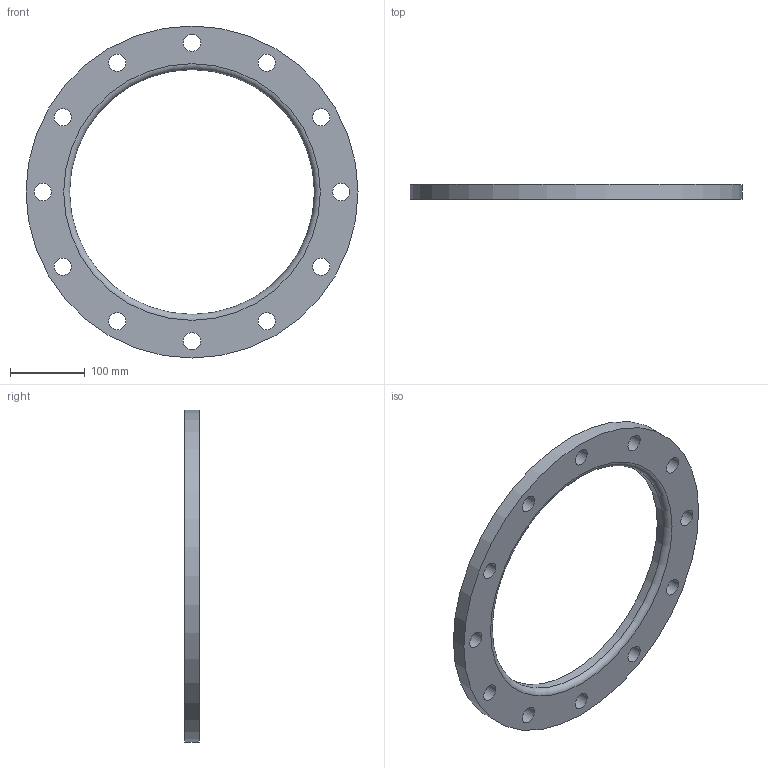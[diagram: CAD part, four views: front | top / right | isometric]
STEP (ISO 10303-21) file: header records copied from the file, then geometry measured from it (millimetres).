
FILE_DESCRIPTION(/* description */ (''),/* implementation_level */ '2;1');
FILE_NAME(/* name */ 'Z:\Geberit\Export\NewStep\372745.stp',/* time_stamp */ '2014-04-02T08:07:13+02:00',/* author */ ('nelson'),/* organization */ (''),/* preprocessor_version */ 'ST-DEVELOPER v15.2',/* originating_system */ 'Autodesk Inventor 2014',/* authorisation */ '');
FILE_SCHEMA (('AUTOMOTIVE_DESIGN { 1 0 10303 214 3 1 1 }'));
Length unit declared in the file: millimetre
Products named in the file (1): 372745
Bounding box: 445 x 20 x 445 mm (x, y, z)
Volume: 1306622.9 mm3; surface area: 194493.9 mm2
Topology: 1 solids, 1 shells, 17 faces, 44 edges, 29 vertices
Faces by surface type: cylinder 14, plane 2, torus 1
Full cylindrical faces by diameter (mm): 23 x12, 328 x1, 445 x1
Entity records: 537 total; most frequent: DIRECTION 94, CARTESIAN_POINT 76, EDGE_LOOP 58, ORIENTED_EDGE 58, AXIS2_PLACEMENT_3D 47, FACE_BOUND 42, CIRCLE 29, VERTEX_POINT 29
